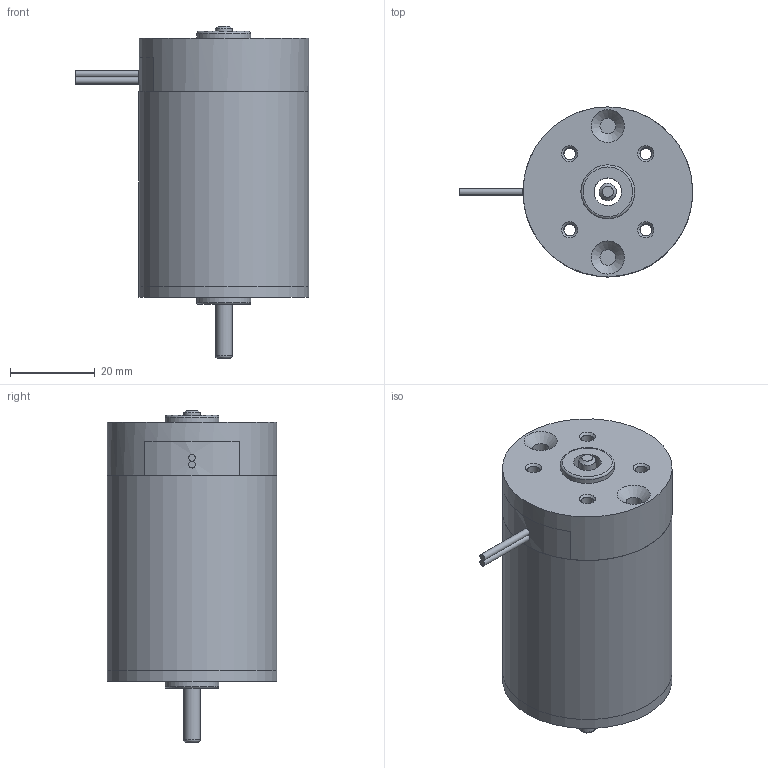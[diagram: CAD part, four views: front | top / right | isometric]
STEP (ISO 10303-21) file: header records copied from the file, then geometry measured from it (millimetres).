
FILE_DESCRIPTION((''),'2;1');
FILE_NAME('D:\연구개발부2팀 1파트\10_진행업무\3D\RM4_SERIES\RM44ㅁBL.stp','2014-06-23T10:37:22',('song'),(''),'Autodesk Inventor 2011','Autodesk Inventor 2011','');
FILE_SCHEMA(('AUTOMOTIVE_DESIGN { 1 0 10303 214 1 1 1 1 }'));
Length unit declared in the file: millimetre
Products named in the file (7): RM44ㅁBL; RM4TYPE_FRONT_HOUSING_; RM44TYPE_SHAFT; RM4TYPE_PIPE_HOUSING_pi40XL45.9; REAR_HOUSING__ASS'Y_LEAD; RM4TYPE_BRUSH_BRAKET_LEAD; RM4TYPE_REAR_HOUSING
Assembly tree (5 placements, depth 2):
  RM44ㅁBL
    RM4TYPE_FRONT_HOUSING_
    RM44TYPE_SHAFT
    RM4TYPE_PIPE_HOUSING_pi40XL45.9
  REAR_HOUSING__ASS'Y_LEAD
    RM4TYPE_BRUSH_BRAKET_LEAD
    RM4TYPE_REAR_HOUSING
Bounding box: 55 x 40 x 78.24 mm (x, y, z)
Volume: 20760.8 mm3; surface area: 21205.2 mm2
Topology: 5 solids, 6 shells, 68 faces, 145 edges, 90 vertices
Faces by surface type: plane 29, cylinder 24, cone 12, torus 3
Full cylindrical faces by diameter (mm): 1.6 x2, 2.7 x4, 2.8 x4, 3.7 x2, 3.969 x1, 4 x1, 6.5 x1, 6.65 x1, 12.7 x2, 36.5 x1, 40 x3
Entity records: 1859 total; most frequent: DIRECTION 330, CARTESIAN_POINT 265, ORIENTED_EDGE 204, AXIS2_PLACEMENT_3D 147, EDGE_LOOP 133, EDGE_CURVE 102, VERTEX_POINT 82, FACE_OUTER_BOUND 68
